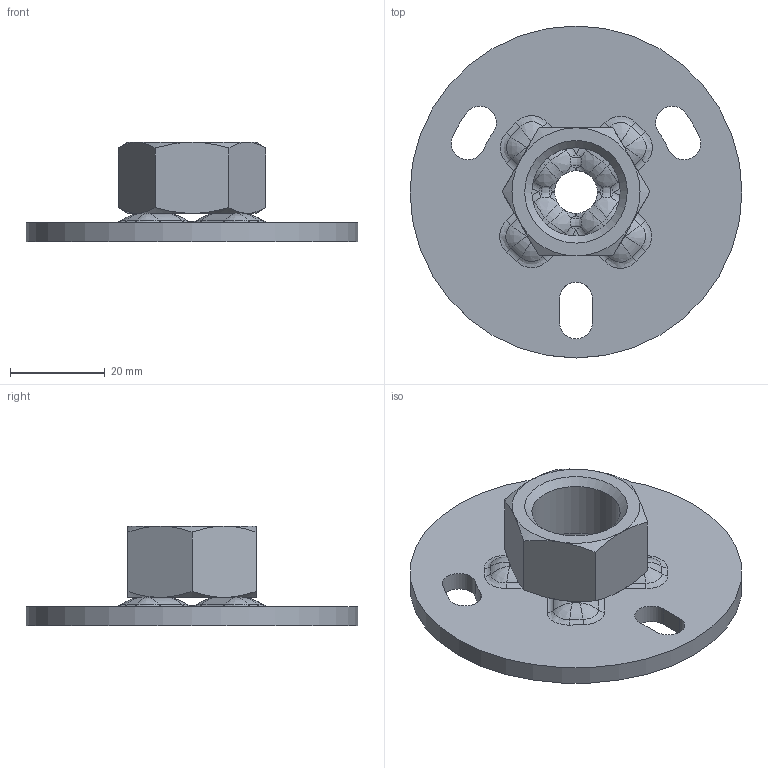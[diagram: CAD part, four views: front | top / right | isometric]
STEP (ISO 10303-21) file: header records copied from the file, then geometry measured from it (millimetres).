
FILE_DESCRIPTION(/* description */ (''),/* implementation_level */ '2;1');
FILE_NAME(/* name */ '362839.stp',/* time_stamp */ '2025-02-20T15:17:24+01:00',/* author */ ('JANAN'),/* organization */ (''),/* preprocessor_version */ 'ST-DEVELOPER v19.2',/* originating_system */ 'Autodesk Inventor 2023',/* authorisation */ '');
FILE_SCHEMA (('AUTOMOTIVE_DESIGN { 1 0 10303 214 3 1 1 }'));
Length unit declared in the file: millimetre
Products named in the file (1): tmp6C99.tmp
Bounding box: 70 x 70 x 21 mm (x, y, z)
Volume: 20179.7 mm3; surface area: 11391.3 mm2
Topology: 1 solids, 1 shells, 134 faces, 341 edges, 186 vertices
Faces by surface type: bspline 48, cylinder 37, plane 27, cone 14, sphere 8
Full cylindrical faces by diameter (mm): 9 x1, 18.631 x1, 70 x1
Entity records: 7112 total; most frequent: CARTESIAN_POINT 4073, ORIENTED_EDGE 650, DIRECTION 535, EDGE_CURVE 325, AXIS2_PLACEMENT_3D 228, VERTEX_POINT 186, EDGE_LOOP 143, STYLED_ITEM 135
